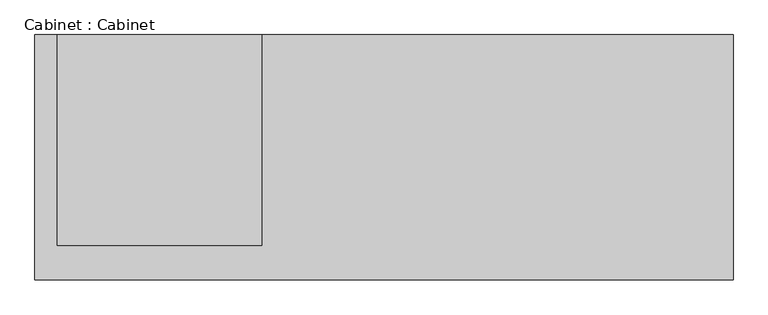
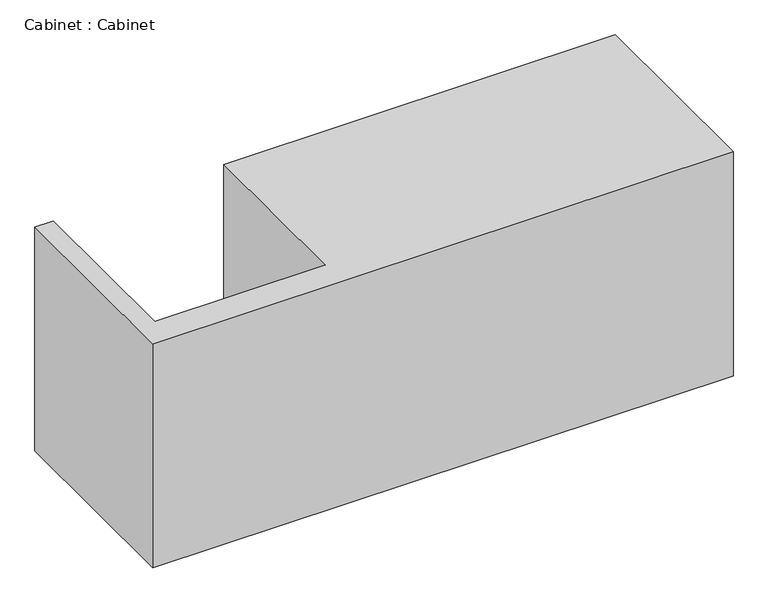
"""IFC4 building model written with IfcOpenShell, lengths in millimetres: furniture geometry, Cabinet : Cabinet."""

from ifc_helpers import new_model, si_unit, origin, place, context, project, spatial, faceted_brep, source, transform, mapped, element, save


def cabinet_cabinet_2f99e284(model_context):
    return source(origin(), model_context, "Body", "Brep", [
        faceted_brep([(-3710.6365254, 11401.7253995, 8835.4630842), (-3710.6365254, 10751.7253995, 8835.4630842), (-1860.6365254, 10751.7253995, 8835.4630842), (-1860.6365254, 11401.7253995, 8835.4630842), (-3108.8740846, 11401.7253995, 8835.4630842), (-3108.8740846, 10841.7253995, 8835.4630842), (-3652.6155532, 10841.7253995, 8835.4630842), (-3652.6155532, 11401.7253995, 8835.4630842), (-1860.6365254, 11401.7253995, 8080.0), (-1860.6365254, 10751.7253995, 8080.0), (-3710.6365254, 10751.7253995, 8080.0), (-3710.6365254, 11401.7253995, 8080.0), (-3652.6155532, 11401.7253995, 8080.0), (-3652.6155532, 10796.7253995, 8080.0), (-1897.6155532, 10796.7253995, 8080.0), (-1897.6155532, 11401.7253995, 8080.0), (-1897.6155532, 11401.7253995, 8245.6662149), (-3652.6155532, 11401.7253995, 8245.6662149), (-3652.6155532, 11401.7253995, 8346.7986585), (-3108.8740846, 11401.7253995, 8346.7986585), (-3071.4314048, 11401.7253995, 8286.0458347), (-1901.4314048, 11401.7253995, 8286.0458347), (-1901.4314048, 11401.7253995, 8292.3730454), (-1901.4314048, 11401.7253995, 8546.0458347), (-1901.4314048, 11401.7253995, 8552.3730454), (-1901.4314048, 11401.7253995, 8786.0458347), (-1901.4314048, 11401.7253995, 8792.3730454), (-3071.4314048, 11401.7253995, 8792.3730454), (-3071.4314048, 11401.7253995, 8786.0458347), (-3071.4314048, 11401.7253995, 8552.3730454), (-3071.4314048, 11401.7253995, 8546.0458347), (-3071.4314048, 11401.7253995, 8292.3730454), (-1906.4314048, 11401.7253995, 8552.3730454), (-3066.4314048, 11401.7253995, 8552.3730454), (-3066.4314048, 11401.7253995, 8786.0458347), (-1906.4314048, 11401.7253995, 8786.0458347), (-3066.4314048, 11401.7253995, 8546.0458347), (-1906.4314048, 11401.7253995, 8546.0458347), (-1906.4314048, 11401.7253995, 8292.3730454), (-3066.4314048, 11401.7253995, 8292.3730454), (-3652.6155532, 10841.7253995, 8346.7986585), (-3108.8740846, 10841.7253995, 8346.7986585), (-1897.6155532, 10796.7253995, 8245.6662149), (-3652.6155532, 10796.7253995, 8245.6662149), (-3071.4314048, 11396.7253995, 8792.3730454), (-1901.4314048, 11396.7253995, 8792.3730454), (-3071.4314048, 11396.7253995, 8286.0458347), (-1901.4314048, 11396.7253995, 8286.0458347), (-3066.4314048, 11396.7253995, 8552.3730454), (-1906.4314048, 11396.7253995, 8552.3730454), (-1906.4314048, 11396.7253995, 8786.0458347), (-3066.4314048, 11396.7253995, 8786.0458347), (-3066.4314048, 11396.7253995, 8546.0458347), (-3066.4314048, 11396.7253995, 8292.3730454), (-1906.4314048, 11396.7253995, 8292.3730454), (-1906.4314048, 11396.7253995, 8546.0458347)], [[[0, 1, 2, 3, 4, 5, 6, 7]], [[8, 9, 10, 11, 12, 13, 14, 15]], [[3, 8, 15, 16, 17, 12, 11, 0, 7, 18, 19, 4], [20, 21, 22, 23, 24, 25, 26, 27, 28, 29, 30, 31]], [[32, 33, 34, 35]], [[36, 37, 38, 39]], [[1, 0, 11, 10]], [[2, 1, 10, 9]], [[3, 2, 9, 8]], [[18, 40, 41, 19]], [[40, 18, 7, 6]], [[41, 40, 6, 5]], [[19, 41, 5, 4]], [[16, 42, 43, 17]], [[17, 43, 13, 12]], [[43, 42, 14, 13]], [[42, 16, 15, 14]], [[44, 27, 26, 45]], [[20, 46, 47, 21]], [[27, 44, 46, 20, 31, 30, 29, 28]], [[47, 46, 44, 45], [48, 49, 50, 51], [52, 53, 54, 55]], [[33, 48, 51, 34]], [[52, 36, 39, 53]], [[49, 32, 35, 50]], [[37, 55, 54, 38]], [[47, 45, 26, 25, 24, 23, 22, 21]], [[49, 48, 33, 32]], [[52, 55, 37, 36]], [[51, 50, 35, 34]], [[54, 53, 39, 38]]]),
    ])


if __name__ == "__main__":
    model = new_model("IFC4")
    model_context = context("Model", 3, world=origin())
    ifc_project = project(units=[si_unit("LENGTHUNIT", "METRE", prefix="MILLI")], contexts=[model_context])
    site = spatial("IfcSite", under=ifc_project)
    building = spatial("IfcBuilding", under=site)
    placement = place(None, origin())
    cabinet_cabinet_shape = cabinet_cabinet_2f99e284(model_context)
    element("IfcFurniture", 1, ObjectType="Cabinet : Cabinet", at=placement, inside=building, context=model_context, shape_type="MappedRepresentation", body=[
        mapped(cabinet_cabinet_shape, transform((0.0, 0.0, 0.0), x_axis=(1.0, 0.0, 0.0), y_axis=(0.0, 1.0, 0.0), z_axis=(0.0, 0.0, 1.0))),
    ])
    save(model, "model.ifc")
